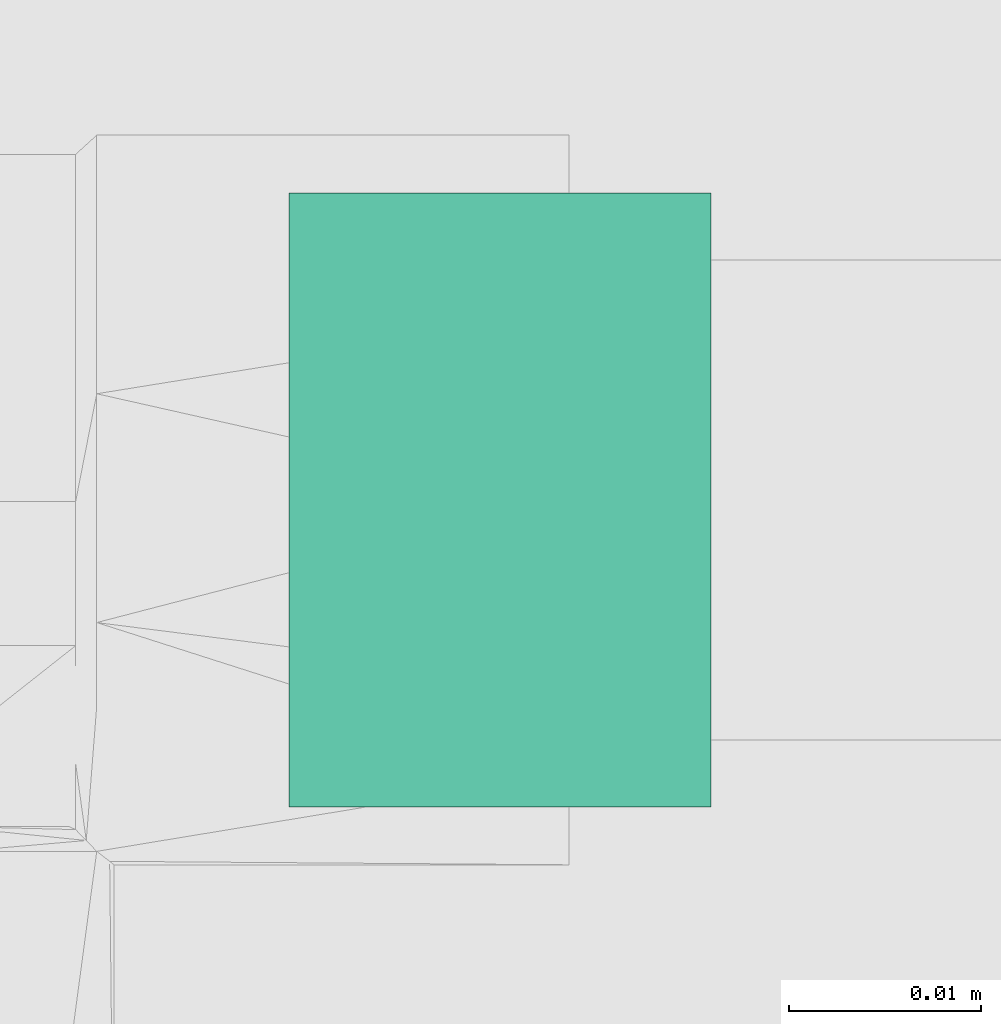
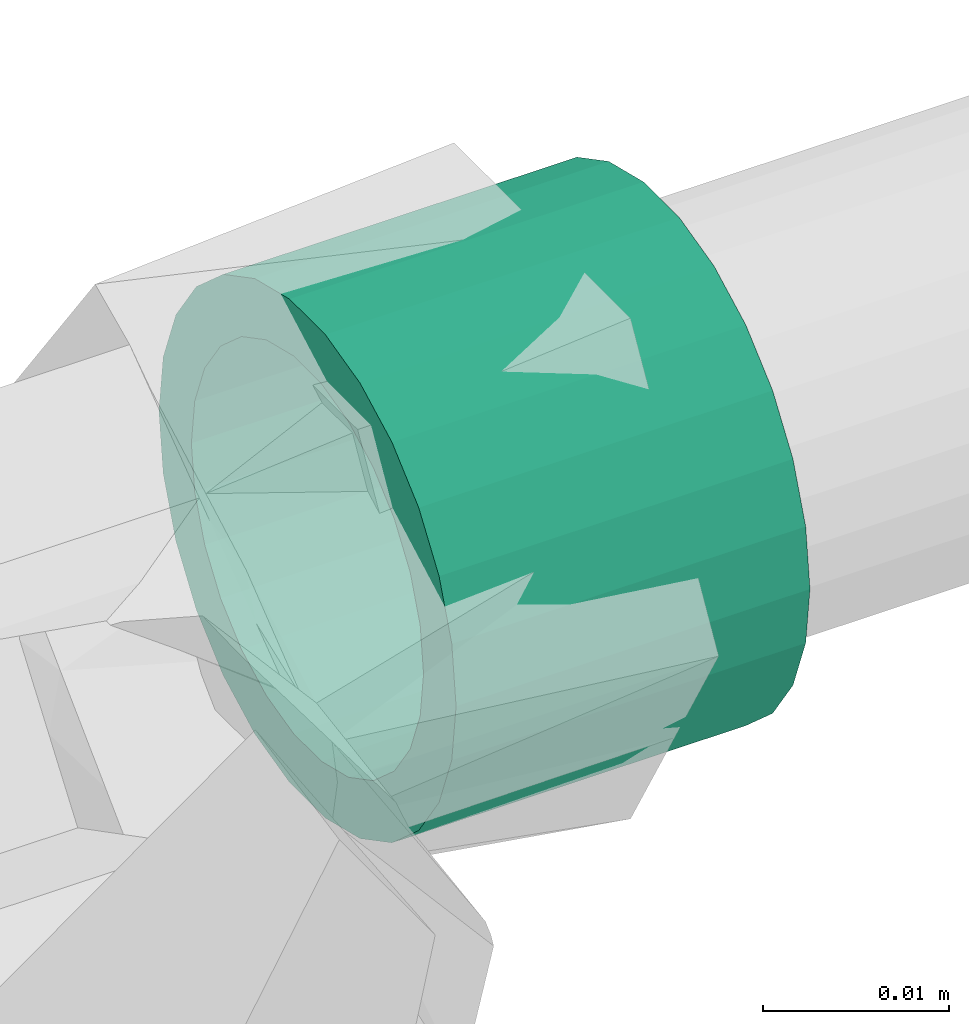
# One storey, part 157 of 166: 1 flow fitting.
"""IFC2X3 building model written with IfcOpenShell, lengths in metres."""

from ifc_helpers import new_model, entity, si_unit, converted_unit, direction, frame, frame_2d, origin, place, context, subcontext, project, spatial, hollow_circle, extrude, source, transform, mapped, material, type_object, type_shapes, element, save


model = new_model("IFC2X3")

# Units and contexts
model_context = context("Model", 3, precision=1e-05, world=origin(), true_north=direction((6.123233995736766e-17, 1.0)))
body_context = subcontext(model_context, "Body", "Model", "MODEL_VIEW")
ifc_project = project(units=[si_unit("LENGTHUNIT", "METRE"), converted_unit("PLANEANGLEUNIT", "DEGREE", entity("IfcPlaneAngleMeasure", 0.017453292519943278), si_unit("PLANEANGLEUNIT", "RADIAN"), dimensions=[0, 0, 0, 0, 0, 0, 0]), si_unit("AREAUNIT", "SQUARE_METRE")], contexts=[model_context])

# Site, building, storey
site_placement = place(None, origin())
site = spatial("IfcSite", under=ifc_project, at=site_placement, Name="Default", CompositionType="ELEMENT")
building_placement = place(site_placement, origin())
building = spatial("IfcBuilding", under=site, at=building_placement, Name="CASA DE ACOLHIDA PARA IDOSOS", CompositionType="ELEMENT")
storey_placement = place(building_placement, frame((0.0, 0.0, -1.7499999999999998)))
storey = spatial("IfcBuildingStorey", under=building, at=storey_placement, Name="IMPLANTAÇÃO DRENAGEM", CompositionType="ELEMENT", Elevation=-1.7499999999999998)

# Flow fitting
ifc_material = material(Name="PVC Marrom")
pipe_fitting_type = type_object("IfcPipeFittingType", Name="AF_Soldavel_Bucha de Reducao Curta:Standard", PredefinedType="NOTDEFINED", material=ifc_material)
shared_shape = source(origin(), body_context, "Body", "SweptSolid", [
    extrude(hollow_circle(Radius=0.016, WallThickness=0.0034999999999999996, at=frame_2d((0.0, -7.20339910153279e-17), x_axis=(1.0, 0.0))), frame((0.0, 0.0, 0.0), z_axis=(1.0, 0.0, 0.0), x_axis=(0.0, 1.0, 0.0)), (0.0, 0.0, 1.0), 0.02200000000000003),
])
type_shapes(pipe_fitting_type, [shared_shape])
flow_fitting_placement = place(storey_placement, frame((20.08525371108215, 36.05494207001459, -0.19999999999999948), z_axis=(0.0, 0.0, 1.0), x_axis=(-1.0, 0.0, 0.0)))
element("IfcFlowFitting", 1, at=flow_fitting_placement, inside=storey, type_object=pipe_fitting_type, material=ifc_material, Name="AF_Soldavel_Bucha de Reducao Curta:Standard", ObjectType="AF_Soldavel_Bucha de Reducao Curta:Standard", context=body_context, shape_type="MappedRepresentation", body=[
    mapped(shared_shape, transform((0.0, 0.0, 0.0), scale=1.0)),
])

save(model, "model.ifc")
